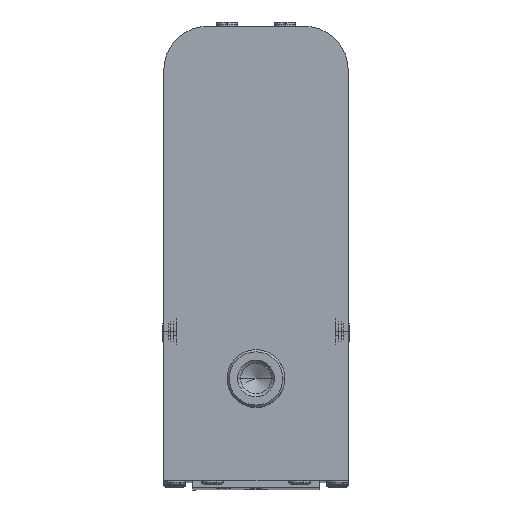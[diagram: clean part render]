
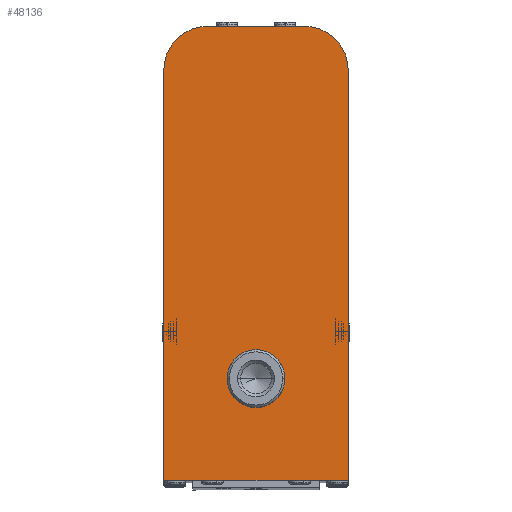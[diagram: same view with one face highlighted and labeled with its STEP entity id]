
A CAD part, top view. The second image highlights one B-rep face of the part: STEP entity #48136.
In plain terms, the highlighted planar face has unit normal (0, 0, 1).
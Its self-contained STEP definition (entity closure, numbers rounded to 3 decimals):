
#1261 = DIRECTION ( 'NONE',  ( 0., -1., 0. ) ) ;
#2935 = ORIENTED_EDGE ( 'NONE', *, *, #47556, .F. ) ;
#3633 = DIRECTION ( 'NONE',  ( 1., 0., 0. ) ) ;
#5655 = CARTESIAN_POINT ( 'NONE',  ( 12.7, 38.1, 0. ) ) ;
#6090 = DIRECTION ( 'NONE',  ( 1., 0., 0. ) ) ;
#8513 = CARTESIAN_POINT ( 'NONE',  ( -6.7, 32.1, 0. ) ) ;
#10106 = VERTEX_POINT ( 'NONE', #41472 ) ;
#10508 = VECTOR ( 'NONE', #37715, 1000. ) ;
#10686 = ORIENTED_EDGE ( 'NONE', *, *, #42694, .F. ) ;
#12069 = CARTESIAN_POINT ( 'NONE',  ( 3.969, -10.446, 0. ) ) ;
#13490 = CARTESIAN_POINT ( 'NONE',  ( -6.7, 38.1, 0. ) ) ;
#13878 = DIRECTION ( 'NONE',  ( 1., 0., 0. ) ) ;
#14140 = DIRECTION ( 'NONE',  ( 0., 0., 1. ) ) ;
#14658 = VERTEX_POINT ( 'NONE', #13490 ) ;
#15536 = ORIENTED_EDGE ( 'NONE', *, *, #70470, .T. ) ;
#16598 = CARTESIAN_POINT ( 'NONE',  ( -3.969, -10.446, 0. ) ) ;
#20772 = AXIS2_PLACEMENT_3D ( 'NONE', #28345, #55845, #70509 ) ;
#21259 = CARTESIAN_POINT ( 'NONE',  ( 6.7, 32.1, 0. ) ) ;
#25767 = CIRCLE ( 'NONE', #83244, 3.969 ) ;
#26576 = LINE ( 'NONE', #5655, #41075 ) ;
#28326 = EDGE_LOOP ( 'NONE', ( #15536, #2935, #61133, #54659, #60094, #71135 ) ) ;
#28345 = CARTESIAN_POINT ( 'NONE',  ( 0., -10.446, 0. ) ) ;
#29857 = AXIS2_PLACEMENT_3D ( 'NONE', #8513, #72971, #37406 ) ;
#31639 = DIRECTION ( 'NONE',  ( -1., 0., 0. ) ) ;
#32004 = EDGE_CURVE ( 'NONE', #50901, #46343, #26576, .T. ) ;
#34371 = CIRCLE ( 'NONE', #20772, 3.969 ) ;
#36142 = CARTESIAN_POINT ( 'NONE',  ( 0., 0., 0. ) ) ;
#37033 = VERTEX_POINT ( 'NONE', #71994 ) ;
#37406 = DIRECTION ( 'NONE',  ( 1., 0., 0. ) ) ;
#37715 = DIRECTION ( 'NONE',  ( -1., 0., 0. ) ) ;
#39614 = AXIS2_PLACEMENT_3D ( 'NONE', #21259, #14140, #6090 ) ;
#41075 = VECTOR ( 'NONE', #54058, 1000. ) ;
#41472 = CARTESIAN_POINT ( 'NONE',  ( -12.7, 32.1, 0. ) ) ;
#42510 = EDGE_CURVE ( 'NONE', #14658, #10106, #72235, .T. ) ;
#42694 = EDGE_CURVE ( 'NONE', #87321, #80420, #34371, .T. ) ;
#44345 = CARTESIAN_POINT ( 'NONE',  ( 12.7, 38.1, 0. ) ) ;
#46343 = VERTEX_POINT ( 'NONE', #77291 ) ;
#47556 = EDGE_CURVE ( 'NONE', #46343, #77155, #52956, .T. ) ;
#48136 = ADVANCED_FACE ( 'NONE', ( #58424, #50844 ), #63657, .T. ) ;
#49194 = EDGE_LOOP ( 'NONE', ( #10686, #64516 ) ) ;
#50844 = FACE_BOUND ( 'NONE', #49194, .T. ) ;
#50901 = VERTEX_POINT ( 'NONE', #88367 ) ;
#52956 = LINE ( 'NONE', #81866, #78774 ) ;
#53136 = AXIS2_PLACEMENT_3D ( 'NONE', #36142, #93493, #13878 ) ;
#54058 = DIRECTION ( 'NONE',  ( 0., -1., 0. ) ) ;
#54659 = ORIENTED_EDGE ( 'NONE', *, *, #63633, .T. ) ;
#55845 = DIRECTION ( 'NONE',  ( 0., 0., 1. ) ) ;
#58424 = FACE_OUTER_BOUND ( 'NONE', #28326, .T. ) ;
#58596 = LINE ( 'NONE', #44345, #10508 ) ;
#58637 = LINE ( 'NONE', #87532, #76874 ) ;
#60094 = ORIENTED_EDGE ( 'NONE', *, *, #82455, .T. ) ;
#60417 = EDGE_CURVE ( 'NONE', #80420, #87321, #25767, .T. ) ;
#61133 = ORIENTED_EDGE ( 'NONE', *, *, #32004, .F. ) ;
#63633 = EDGE_CURVE ( 'NONE', #50901, #37033, #80507, .T. ) ;
#63657 = PLANE ( 'NONE',  #53136 ) ;
#64516 = ORIENTED_EDGE ( 'NONE', *, *, #60417, .F. ) ;
#70470 = EDGE_CURVE ( 'NONE', #10106, #77155, #58637, .T. ) ;
#70509 = DIRECTION ( 'NONE',  ( 1., 0., 0. ) ) ;
#71135 = ORIENTED_EDGE ( 'NONE', *, *, #42510, .T. ) ;
#71994 = CARTESIAN_POINT ( 'NONE',  ( 6.7, 38.1, 0. ) ) ;
#72235 = CIRCLE ( 'NONE', #29857, 6. ) ;
#72971 = DIRECTION ( 'NONE',  ( 0., 0., 1. ) ) ;
#76874 = VECTOR ( 'NONE', #1261, 1000. ) ;
#77155 = VERTEX_POINT ( 'NONE', #85356 ) ;
#77291 = CARTESIAN_POINT ( 'NONE',  ( 12.7, -24.4, 0. ) ) ;
#78774 = VECTOR ( 'NONE', #31639, 1000. ) ;
#80420 = VERTEX_POINT ( 'NONE', #12069 ) ;
#80507 = CIRCLE ( 'NONE', #39614, 6. ) ;
#81866 = CARTESIAN_POINT ( 'NONE',  ( -8.7, -24.4, 0. ) ) ;
#81877 = DIRECTION ( 'NONE',  ( 0., 0., 1. ) ) ;
#82455 = EDGE_CURVE ( 'NONE', #37033, #14658, #58596, .T. ) ;
#83244 = AXIS2_PLACEMENT_3D ( 'NONE', #90366, #81877, #3633 ) ;
#85356 = CARTESIAN_POINT ( 'NONE',  ( -12.7, -24.4, 0. ) ) ;
#87321 = VERTEX_POINT ( 'NONE', #16598 ) ;
#87532 = CARTESIAN_POINT ( 'NONE',  ( -12.7, 38.1, 0. ) ) ;
#88367 = CARTESIAN_POINT ( 'NONE',  ( 12.7, 32.1, 0. ) ) ;
#90366 = CARTESIAN_POINT ( 'NONE',  ( 0., -10.446, 0. ) ) ;
#93493 = DIRECTION ( 'NONE',  ( 0., 0., 1. ) ) ;
